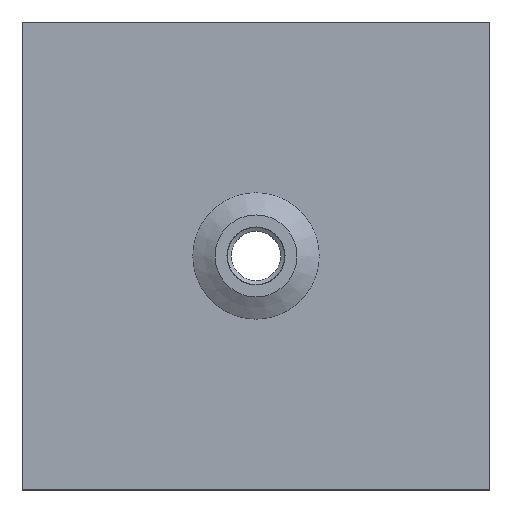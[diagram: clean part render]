
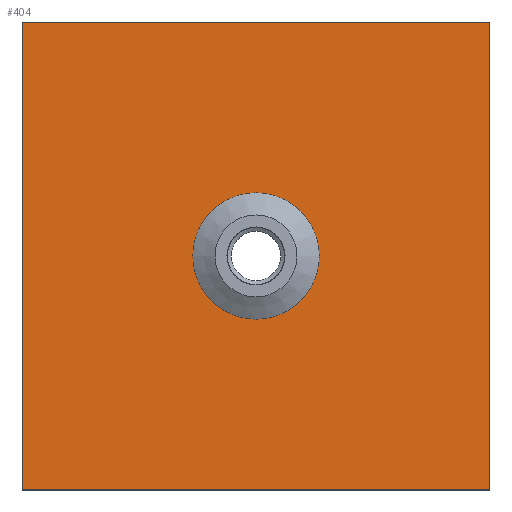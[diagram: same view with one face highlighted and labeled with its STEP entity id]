
A CAD part, top view. The second image highlights one B-rep face of the part: STEP entity #404.
In plain terms, the highlighted planar face has unit normal (0, 0, 1).
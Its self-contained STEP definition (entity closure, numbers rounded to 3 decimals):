
#22=LINE($,#661,#34);
#26=LINE($,#669,#38);
#29=LINE($,#675,#41);
#32=LINE($,#680,#44);
#34=VECTOR($,#544,500.);
#38=VECTOR($,#550,500.);
#41=VECTOR($,#555,500.);
#44=VECTOR($,#560,500.);
#70=PLANE($,#456);
#92=FACE_BOUND($,#161,.T.);
#93=FACE_BOUND($,#162,.T.);
#161=EDGE_LOOP($,(#322));
#162=EDGE_LOOP($,(#323,#324,#325,#326));
#194=CIRCLE($,#449,42.);
#218=VERTEX_POINT($,#654);
#220=VERTEX_POINT($,#659);
#221=VERTEX_POINT($,#660);
#224=VERTEX_POINT($,#668);
#226=VERTEX_POINT($,#674);
#250=EDGE_CURVE($,#218,#218,#194,.T.);
#252=EDGE_CURVE($,#220,#221,#22,.T.);
#256=EDGE_CURVE($,#221,#224,#26,.T.);
#259=EDGE_CURVE($,#224,#226,#29,.T.);
#262=EDGE_CURVE($,#226,#220,#32,.T.);
#322=ORIENTED_EDGE($,*,*,#250,.T.);
#323=ORIENTED_EDGE($,*,*,#252,.F.);
#324=ORIENTED_EDGE($,*,*,#262,.F.);
#325=ORIENTED_EDGE($,*,*,#259,.F.);
#326=ORIENTED_EDGE($,*,*,#256,.F.);
#404=ADVANCED_FACE($,(#92,#93),#70,.T.);
#449=AXIS2_PLACEMENT_3D($,#655,#538,#539);
#456=AXIS2_PLACEMENT_3D($,#683,#564,#565);
#538=DIRECTION('center_axis',(0.,0.,-1.));
#539=DIRECTION('ref_axis',(-1.,0.,0.));
#544=DIRECTION($,(0.,1.,0.));
#550=DIRECTION($,(1.,0.,0.));
#555=DIRECTION($,(0.,-1.,0.));
#560=DIRECTION($,(-1.,0.,0.));
#564=DIRECTION('center_axis',(0.,0.,1.));
#565=DIRECTION('ref_axis',(1.,0.,0.));
#654=CARTESIAN_POINT('',(42.,0.,1.3));
#655=CARTESIAN_POINT('Origin',(0.,0.,1.3));
#659=CARTESIAN_POINT('',(-250.,-250.,1.3));
#660=CARTESIAN_POINT('',(-250.,250.,1.3));
#661=CARTESIAN_POINT($,(-250.,250.,1.3));
#668=CARTESIAN_POINT('',(250.,250.,1.3));
#669=CARTESIAN_POINT($,(250.,250.,1.3));
#674=CARTESIAN_POINT('',(250.,-250.,1.3));
#675=CARTESIAN_POINT($,(250.,-250.,1.3));
#680=CARTESIAN_POINT($,(-250.,-250.,1.3));
#683=CARTESIAN_POINT('Origin',(0.,0.,
1.3));
